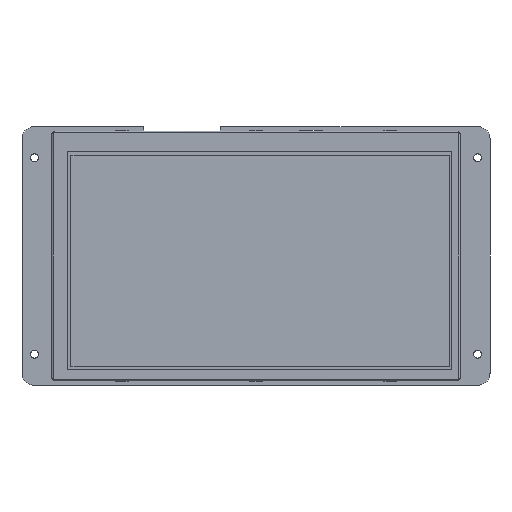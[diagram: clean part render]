
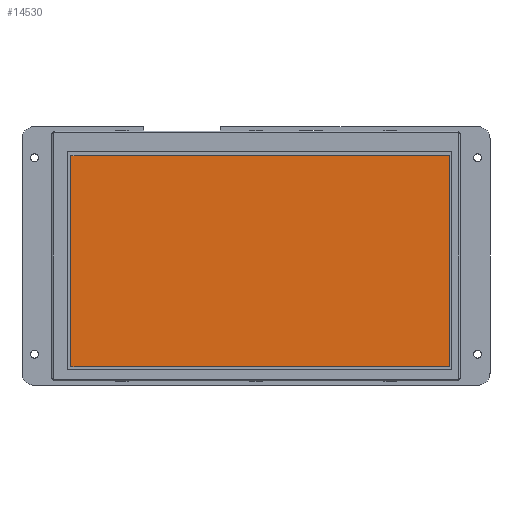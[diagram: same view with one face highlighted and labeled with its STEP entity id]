
A CAD part, front view. The second image highlights one B-rep face of the part: STEP entity #14530.
In plain terms, the highlighted planar face has unit normal (0, -1, 0) as drawn and (0, 1, 0) by its records, which use the part's own axes.
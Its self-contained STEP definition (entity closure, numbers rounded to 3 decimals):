
#859 = LINE ( 'NONE', #7553, #13546 ) ;
#1664 = CARTESIAN_POINT ( 'NONE',  ( 0., 3.2, 0. ) ) ;
#2899 = LINE ( 'NONE', #12956, #16011 ) ;
#2946 = DIRECTION ( 'NONE',  ( 0., 0., -1. ) ) ;
#3327 = EDGE_CURVE ( 'NONE', #14445, #3788, #859, .T. ) ;
#3420 = CARTESIAN_POINT ( 'NONE',  ( 157.437, 3.2, -8.87 ) ) ;
#3788 = VERTEX_POINT ( 'NONE', #11037 ) ;
#3828 = VERTEX_POINT ( 'NONE', #14954 ) ;
#3904 = ORIENTED_EDGE ( 'NONE', *, *, #3327, .T. ) ;
#4474 = DIRECTION ( 'NONE',  ( 0., 0., -1. ) ) ;
#4730 = FACE_OUTER_BOUND ( 'NONE', #7842, .T. ) ;
#5390 = CARTESIAN_POINT ( 'NONE',  ( 157.437, 3.2, -8.87 ) ) ;
#6543 = DIRECTION ( 'NONE',  ( -1., 0., 0. ) ) ;
#7553 = CARTESIAN_POINT ( 'NONE',  ( 3.223, 3.2, -8.87 ) ) ;
#7584 = VERTEX_POINT ( 'NONE', #5390 ) ;
#7842 = EDGE_LOOP ( 'NONE', ( #9176, #13513, #11262, #3904 ) ) ;
#8094 = EDGE_CURVE ( 'NONE', #3828, #14445, #2899, .T. ) ;
#8856 = DIRECTION ( 'NONE',  ( 0., 0., 1. ) ) ;
#9004 = CARTESIAN_POINT ( 'NONE',  ( 3.223, 3.2, -94.79 ) ) ;
#9168 = VECTOR ( 'NONE', #12361, 1000. ) ;
#9176 = ORIENTED_EDGE ( 'NONE', *, *, #14781, .T. ) ;
#9529 = LINE ( 'NONE', #3420, #9168 ) ;
#10560 = DIRECTION ( 'NONE',  ( 0., -1., 0. ) ) ;
#10796 = AXIS2_PLACEMENT_3D ( 'NONE', #1664, #10560, #2946 ) ;
#11037 = CARTESIAN_POINT ( 'NONE',  ( 3.223, 3.2, -8.87 ) ) ;
#11262 = ORIENTED_EDGE ( 'NONE', *, *, #8094, .T. ) ;
#12361 = DIRECTION ( 'NONE',  ( 1., 0., 0. ) ) ;
#12956 = CARTESIAN_POINT ( 'NONE',  ( 3.223, 3.2, -94.79 ) ) ;
#13040 = PLANE ( 'NONE',  #10796 ) ;
#13054 = VECTOR ( 'NONE', #4474, 1000. ) ;
#13104 = LINE ( 'NONE', #14913, #13054 ) ;
#13513 = ORIENTED_EDGE ( 'NONE', *, *, #15261, .T. ) ;
#13546 = VECTOR ( 'NONE', #8856, 1000. ) ;
#14445 = VERTEX_POINT ( 'NONE', #9004 ) ;
#14530 = ADVANCED_FACE ( 'NONE', ( #4730 ), #13040, .F. ) ;
#14781 = EDGE_CURVE ( 'NONE', #3788, #7584, #9529, .T. ) ;
#14913 = CARTESIAN_POINT ( 'NONE',  ( 157.437, 3.2, -94.79 ) ) ;
#14954 = CARTESIAN_POINT ( 'NONE',  ( 157.437, 3.2, -94.79 ) ) ;
#15261 = EDGE_CURVE ( 'NONE', #7584, #3828, #13104, .T. ) ;
#16011 = VECTOR ( 'NONE', #6543, 1000. ) ;
